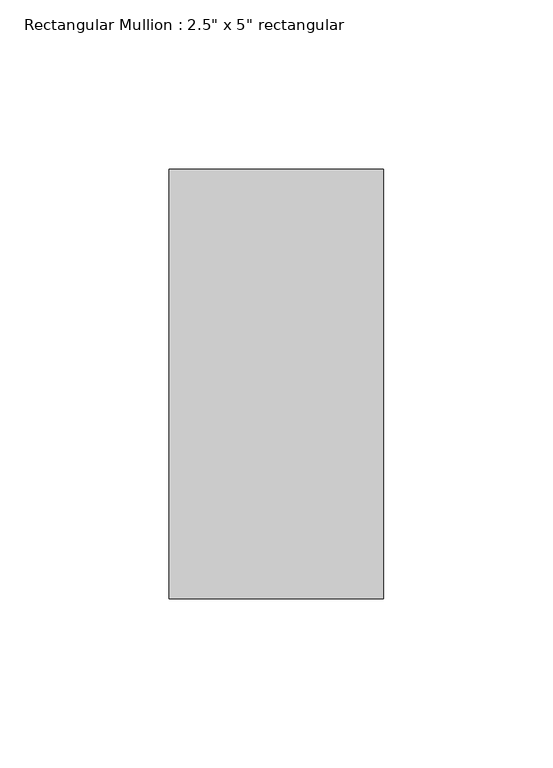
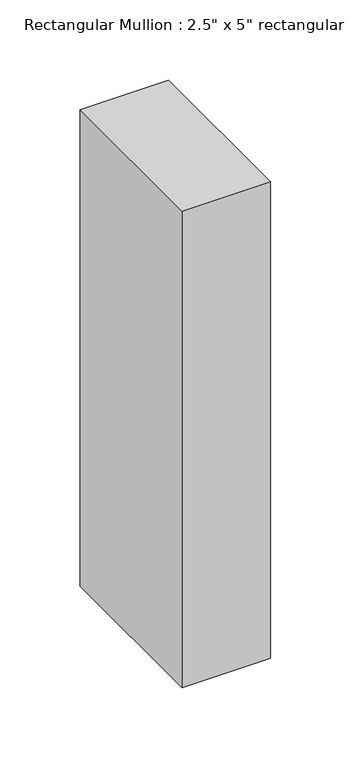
"""IFC4 building model written with IfcOpenShell, lengths in millimetres: member geometry."""

import ifcopenshell
import ifcopenshell.guid

model = None  # the IFC model being written
_history = None  # IfcOwnerHistory: only IFC2X3 demands one
_inside = {}  # id of a spatial element -> (the spatial element, [elements in it])
_under = {}  # id of a project, library or spatial element -> (it, [spatial elements below it])
_declared = {}  # id of a project -> (the project, [libraries it declares])
_typed = {}  # id of a type object -> (the type object, [elements of that type])
_made_of = {}  # id of a material, layer set ... -> (it, [elements and type objects made of it])


def new_model(schema):
    """Start an empty IFC model of exactly this schema.

    Asked for "IFC4X3", IfcOpenShell would pick the latest addendum, in which some entities
    have other attributes; the version numbers below select the first issue.
    IFC2X3 requires an IfcOwnerHistory on every rooted entity: one is made here for all.
    """
    global model, _history
    if schema == "IFC4X3":
        model = ifcopenshell.file(schema_version=(4, 3, 0, 0))
    else:
        model = ifcopenshell.file(schema=schema)
    _inside.clear()
    _under.clear()
    _declared.clear()
    _typed.clear()
    _made_of.clear()
    _history = None
    if model.schema == "IFC2X3":
        org = make("IfcOrganization", Name="unknown")
        user = make(
            "IfcPersonAndOrganization",
            ThePerson=make("IfcPerson", FamilyName="unknown"),
            TheOrganization=org,
        )
        app = make(
            "IfcApplication",
            ApplicationDeveloper=org,
            Version="unknown",
            ApplicationFullName="unknown",
            ApplicationIdentifier="unknown",
        )
        _history = make(
            "IfcOwnerHistory",
            OwningUser=user,
            OwningApplication=app,
            ChangeAction="ADDED",
            CreationDate=0,
        )
    return model


def make(cls, **values):
    """One entity of the class cls with the attributes given. An attribute that is None is left unset."""
    return model.create_entity(
        cls, **{name: value for name, value in values.items() if value is not None}
    )


def rooted(cls, **values):
    """An entity with a GlobalId (a new one), such as an element, a storey or a relation."""
    return make(cls, GlobalId=ifcopenshell.guid.new(), OwnerHistory=_history, **values)


def si_unit(unit_type, name, prefix=None):
    """IfcSIUnit, for example si_unit("LENGTHUNIT", "METRE", prefix="MILLI")."""
    return make("IfcSIUnit", UnitType=unit_type, Prefix=prefix, Name=name)


def assignment(units):
    """IfcUnitAssignment: the units of a project."""
    return None if units is None else make("IfcUnitAssignment", Units=units)


def point(xyz):
    """IfcCartesianPoint."""
    return None if xyz is None else make("IfcCartesianPoint", Coordinates=xyz)


def direction(xyz):
    """IfcDirection."""
    return None if xyz is None else make("IfcDirection", DirectionRatios=xyz)


def frame(location, z_axis=None, x_axis=None):
    """IfcAxis2Placement3D, a coordinate frame: its origin and axes. An axis left out is left unset."""
    return make(
        "IfcAxis2Placement3D",
        Location=point(location),
        Axis=direction(z_axis),
        RefDirection=direction(x_axis),
    )


def origin():
    """The frame at (0, 0, 0) with its axes left unset."""
    return frame((0.0, 0.0, 0.0))


def place(relative_to, where):
    """IfcLocalPlacement: puts the frame where relative to a parent placement (None: the world)."""
    return make(
        "IfcLocalPlacement", PlacementRelTo=relative_to, RelativePlacement=where
    )


def context(
    kind, dimensions, precision=None, world=None, true_north=None, identifier=None
):
    """IfcGeometricRepresentationContext, for example the 3D "Model" context."""
    return make(
        "IfcGeometricRepresentationContext",
        ContextIdentifier=identifier,
        ContextType=kind,
        CoordinateSpaceDimension=dimensions,
        Precision=precision,
        WorldCoordinateSystem=world,
        TrueNorth=true_north,
    )


def project(units=None, contexts=None):
    """IfcProject with its units and contexts."""
    return rooted(
        "IfcProject",
        Name="project",
        RepresentationContexts=contexts,
        UnitsInContext=assignment(units),
    )


def spatial(cls, under=None, at=None, **own):
    """A site, building, storey or space (cls), placed at a placement, below another one or the project."""
    s = rooted(cls, ObjectPlacement=at, **own)
    if under is not None:
        _under.setdefault(under.id(), (under, []))[1].append(s)
    return s


def polyline(points):
    """IfcPolyline through the points."""
    return make("IfcPolyline", Points=[point(p) for p in points])


def outline(outer, holes=None, kind="AREA"):
    """IfcArbitraryClosedProfileDef: a profile drawn as a closed curve; with holes, ...WithVoids."""
    if holes is None:
        return make("IfcArbitraryClosedProfileDef", ProfileType=kind, OuterCurve=outer)
    return make(
        "IfcArbitraryProfileDefWithVoids",
        ProfileType=kind,
        OuterCurve=outer,
        InnerCurves=holes,
    )


def extrude(swept, where, along, depth):
    """IfcExtrudedAreaSolid: the profile swept, set in the frame where, extruded along a direction by depth."""
    return make(
        "IfcExtrudedAreaSolid",
        SweptArea=swept,
        Position=where,
        ExtrudedDirection=direction(along),
        Depth=depth,
    )


def shape(context_of_items, identifier, shape_type, items):
    """IfcShapeRepresentation: the items that make up one representation, for example the "Body"."""
    return make(
        "IfcShapeRepresentation",
        ContextOfItems=context_of_items,
        RepresentationIdentifier=identifier,
        RepresentationType=shape_type,
        Items=items,
    )


def source(mapping_origin, context_of_items, identifier, shape_type, items):
    """IfcRepresentationMap: a shape defined once, which mapped items show again and again."""
    return make(
        "IfcRepresentationMap",
        MappingOrigin=mapping_origin,
        MappedRepresentation=shape(context_of_items, identifier, shape_type, items),
    )


def transform(
    local_origin,
    x_axis=None,
    y_axis=None,
    z_axis=None,
    scale=None,
    scale2=None,
    scale3=None,
    uniform=True,
):
    """IfcCartesianTransformationOperator3D, or its non-uniform kind. x_axis, y_axis, z_axis: its Axis1, 2, 3."""
    if uniform:
        return make(
            "IfcCartesianTransformationOperator3D",
            Axis1=direction(x_axis),
            Axis2=direction(y_axis),
            LocalOrigin=point(local_origin),
            Scale=scale,
            Axis3=direction(z_axis),
        )
    return make(
        "IfcCartesianTransformationOperator3DnonUniform",
        Axis1=direction(x_axis),
        Axis2=direction(y_axis),
        LocalOrigin=point(local_origin),
        Scale=scale,
        Axis3=direction(z_axis),
        Scale2=scale2,
        Scale3=scale3,
    )


def mapped(mapping_source, mapping_target):
    """IfcMappedItem: shows the shape of a source again, moved by a transform."""
    return make(
        "IfcMappedItem", MappingSource=mapping_source, MappingTarget=mapping_target
    )


def made_of(thing, what):
    """Note that an element or type object is made of a material, layer set ...; save() writes the relation."""
    if what is not None:
        _made_of.setdefault(what.id(), (what, []))[1].append(thing)
    return thing


def element(
    cls,
    number,
    at=None,
    inside=None,
    cuts=None,
    type_object=None,
    material=None,
    context=None,
    identifier="Body",
    shape_type=None,
    held_by="IfcProductDefinitionShape",
    body=None,
    shapes=None,
    **own,
):
    """One element of the class cls, such as IfcWall. Its Tag is "e" and its number.

    at: its placement. inside: the storey or other place that contains it. cuts: it is an
    opening in that element (IfcRelVoidsElement). A single representation is given by context,
    identifier, shape_type and body (its items); several are given by shapes. held_by: the class
    of the entity that holds the representations. save() writes the other relations.
    """
    e = rooted(cls, Tag="e%d" % number, ObjectPlacement=at, **own)
    if body is not None:
        shapes = [shape(context, identifier, shape_type, body)]
    if shapes is not None:
        e.Representation = make(held_by, Representations=shapes)
    if inside is not None:
        _inside.setdefault(inside.id(), (inside, []))[1].append(e)
    if cuts is not None:
        rooted(
            "IfcRelVoidsElement", RelatingBuildingElement=cuts, RelatedOpeningElement=e
        )
    if type_object is not None:
        _typed.setdefault(type_object.id(), (type_object, []))[1].append(e)
    return made_of(e, material)


def aggregate(whole, parts):
    """IfcRelAggregates: a whole, such as a stair, and the parts it consists of."""
    return rooted("IfcRelAggregates", RelatingObject=whole, RelatedObjects=parts)


def save(model, path):
    """Write the relations noted so far, then the file.

    IfcRelAggregates (storeys below a building ...), IfcRelContainedInSpatialStructure (elements
    in a storey), IfcRelDefinesByType, IfcRelAssociatesMaterial and IfcRelDeclares: one each for
    every whole, place, type object, material and project.
    """
    for whole, parts in _under.values():
        aggregate(whole, parts)
    for where, things in _inside.values():
        rooted(
            "IfcRelContainedInSpatialStructure",
            RelatedElements=things,
            RelatingStructure=where,
        )
    for kind, things in _typed.values():
        rooted("IfcRelDefinesByType", RelatedObjects=things, RelatingType=kind)
    for what, things in _made_of.values():
        rooted("IfcRelAssociatesMaterial", RelatedObjects=things, RelatingMaterial=what)
    for by, libraries in _declared.values():
        rooted("IfcRelDeclares", RelatingContext=by, RelatedDefinitions=libraries)
    model.write(path)


def member_843225dc(model_context):
    return source(origin(), model_context, "Body", "SweptSolid", [
        extrude(outline(polyline([(0.0, 63.5), (0.0, -63.5), (-63.5, -63.5), (-63.5, 63.5), (0.0, 63.5)])), frame((0.0, 0.0, -361.95), z_axis=(0.0, 0.0, 1.0), x_axis=(1.0, 0.0, 0.0)), (0.0, 0.0, 1.0), 361.95),
    ])


if __name__ == "__main__":
    model = new_model("IFC4")
    model_context = context("Model", 3, world=origin())
    ifc_project = project(units=[si_unit("LENGTHUNIT", "METRE", prefix="MILLI")], contexts=[model_context])
    site = spatial("IfcSite", under=ifc_project)
    building = spatial("IfcBuilding", under=site)
    placement = place(None, origin())
    member_shape = member_843225dc(model_context)
    element("IfcMember", 1, ObjectType="Rectangular Mullion : 2.5\" x 5\" rectangular", at=placement, inside=building, context=model_context, shape_type="MappedRepresentation", body=[
        mapped(member_shape, transform((0.0, 0.0, 0.0), x_axis=(1.0, 0.0, 0.0), y_axis=(0.0, 1.0, 0.0), z_axis=(0.0, 0.0, 1.0))),
    ])
    save(model, "model.ifc")
